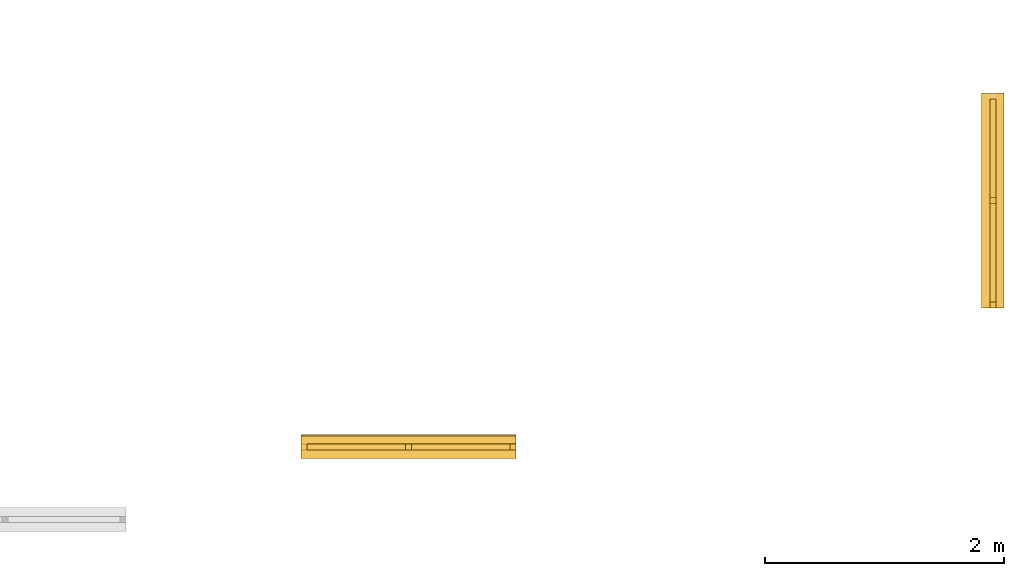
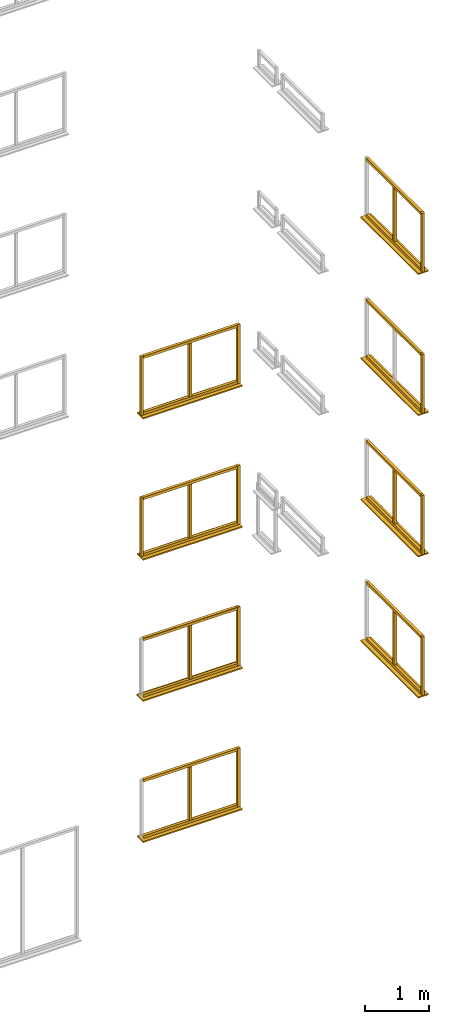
# Not in any storey, part 15 of 22: 46 windows.
"""IFC2X3 model written with IfcOpenShell, lengths in metres."""

from ifc_helpers import new_model, si_unit, frame, origin, place, context, project, faceted_brep, element, save


model = new_model("IFC2X3")

# Units and contexts
model_context = context("Model", 3, precision=1e-06, world=origin())
ifc_project = project(units=[si_unit("LENGTHUNIT", "METRE"), si_unit("PLANEANGLEUNIT", "RADIAN")], contexts=[model_context])

# Windows
placement = place(None, origin())
window_1_placement = place(placement, frame((59.668499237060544, -4.504837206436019, 3.725), z_axis=(0.0, 0.0, 1.0), x_axis=(0.0, 1.0, 0.0)))
element("IfcWindow", 1, at=window_1_placement, Name="leftFrame", context=model_context, shape_type="Brep", body=[
    faceted_brep([(0.0, 0.05, 0.0), (0.05, 0.05, 0.0), (0.05, 0.0, 0.0), (0.0, 0.0, 0.0), (0.05, 0.0, 1.125), (0.05, 0.05, 1.125), (0.0, 0.05, 1.125), (0.0, 0.0, 1.125), (0.0, 0.05, 0.0), (0.0, 0.0, 0.0), (0.0, 0.0, 1.125), (0.0, 0.05, 1.125), (0.05, 0.05, 0.0), (0.0, 0.05, 0.0), (0.0, 0.05, 1.125), (0.05, 0.05, 1.125), (0.05, 0.0, 0.0), (0.05, 0.05, 0.0), (0.05, 0.05, 1.125), (0.05, 0.0, 1.125), (0.0, 0.0, 0.0), (0.05, 0.0, 0.0), (0.05, 0.0, 1.125), (0.0, 0.0, 1.125)], [[[0, 1, 2, 3]], [[4, 5, 6, 7]], [[8, 9, 10, 11]], [[12, 13, 14, 15]], [[16, 17, 18, 19]], [[20, 21, 22, 23]]]),
])
window_2_placement = place(placement, frame((59.736999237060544, -4.504837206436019, 3.7), z_axis=(0.0, 0.0, 1.0), x_axis=(0.0, 1.0, 0.0)))
element("IfcWindow", 2, at=window_2_placement, Name="windowSill", context=model_context, shape_type="Brep", body=[
    faceted_brep([(0.0, 0.187, 0.0), (1.8, 0.187, 0.0), (1.8, 0.0, 0.0), (0.0, 0.0, 0.0), (1.8, 0.0, 0.025), (1.8, 0.187, 0.025), (0.0, 0.187, 0.025), (0.0, 0.0, 0.025), (0.0, 0.187, 0.0), (0.0, 0.0, 0.0), (0.0, 0.0, 0.025), (0.0, 0.187, 0.025), (1.8, 0.187, 0.0), (0.0, 0.187, 0.0), (0.0, 0.187, 0.025), (1.8, 0.187, 0.025), (1.8, 0.0, 0.0), (1.8, 0.187, 0.0), (1.8, 0.187, 0.025), (1.8, 0.0, 0.025), (0.0, 0.0, 0.0), (1.8, 0.0, 0.0), (1.8, 0.0, 0.025), (0.0, 0.0, 0.025)], [[[0, 1, 2, 3]], [[4, 5, 6, 7]], [[8, 9, 10, 11]], [[12, 13, 14, 15]], [[16, 17, 18, 19]], [[20, 21, 22, 23]]]),
])
window_3_placement = place(placement, frame((59.668499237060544, -4.454837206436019, 3.725), z_axis=(0.0, 0.0, 1.0), x_axis=(0.0, 1.0, 0.0)))
element("IfcWindow", 3, at=window_3_placement, Name="bottomFrame", context=model_context, shape_type="Brep", body=[
    faceted_brep([(0.0, 0.05, 0.0), (1.7, 0.05, 0.0), (1.7, 0.0, 0.0), (0.0, 0.0, 0.0), (1.7, 0.0, 0.05), (1.7, 0.05, 0.05), (0.0, 0.05, 0.05), (0.0, 0.0, 0.05), (0.0, 0.05, 0.0), (0.0, 0.0, 0.0), (0.0, 0.0, 0.05), (0.0, 0.05, 0.05), (1.7, 0.05, 0.0), (0.0, 0.05, 0.0), (0.0, 0.05, 0.05), (1.7, 0.05, 0.05), (1.7, 0.0, 0.0), (1.7, 0.05, 0.0), (1.7, 0.05, 0.05), (1.7, 0.0, 0.05), (0.0, 0.0, 0.0), (1.7, 0.0, 0.0), (1.7, 0.0, 0.05), (0.0, 0.0, 0.05)], [[[0, 1, 2, 3]], [[4, 5, 6, 7]], [[8, 9, 10, 11]], [[12, 13, 14, 15]], [[16, 17, 18, 19]], [[20, 21, 22, 23]]]),
])
window_4_placement = place(placement, frame((59.668499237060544, -3.629837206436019, 3.775), z_axis=(0.0, 0.0, 1.0), x_axis=(0.0, 1.0, 0.0)))
element("IfcWindow", 4, at=window_4_placement, Name="verticalBar", context=model_context, shape_type="Brep", body=[
    faceted_brep([(0.0, 0.05, 0.0), (0.05, 0.05, 0.0), (0.05, 0.0, 0.0), (0.0, 0.0, 0.0), (0.05, 0.0, 1.025), (0.05, 0.05, 1.025), (0.0, 0.05, 1.025), (0.0, 0.0, 1.025), (0.0, 0.05, 0.0), (0.0, 0.0, 0.0), (0.0, 0.0, 1.025), (0.0, 0.05, 1.025), (0.05, 0.05, 0.0), (0.0, 0.05, 0.0), (0.0, 0.05, 1.025), (0.05, 0.05, 1.025), (0.05, 0.0, 0.0), (0.05, 0.05, 0.0), (0.05, 0.05, 1.025), (0.05, 0.0, 1.025), (0.0, 0.0, 0.0), (0.05, 0.0, 0.0), (0.05, 0.0, 1.025), (0.0, 0.0, 1.025)], [[[0, 1, 2, 3]], [[4, 5, 6, 7]], [[8, 9, 10, 11]], [[12, 13, 14, 15]], [[16, 17, 18, 19]], [[20, 21, 22, 23]]]),
])
window_5_placement = place(placement, frame((53.84499999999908, -5.766837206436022, 1.0), z_axis=(0.0, 0.0, 1.0), x_axis=(1.0, 0.0, 0.0)))
element("IfcWindow", 5, at=window_5_placement, Name="windowSill", context=model_context, shape_type="Brep", body=[
    faceted_brep([(0.0, 0.187, 0.0), (1.8, 0.187, 0.0), (1.8, 0.0, 0.0), (0.0, 0.0, 0.0), (1.8, 0.0, 0.025), (1.8, 0.187, 0.025), (0.0, 0.187, 0.025), (0.0, 0.0, 0.025), (0.0, 0.187, 0.0), (0.0, 0.0, 0.0), (0.0, 0.0, 0.025), (0.0, 0.187, 0.025), (1.8, 0.187, 0.0), (0.0, 0.187, 0.0), (0.0, 0.187, 0.025), (1.8, 0.187, 0.025), (1.8, 0.0, 0.0), (1.8, 0.187, 0.0), (1.8, 0.187, 0.025), (1.8, 0.0, 0.025), (0.0, 0.0, 0.0), (1.8, 0.0, 0.0), (1.8, 0.0, 0.025), (0.0, 0.0, 0.025)], [[[0, 1, 2, 3]], [[4, 5, 6, 7]], [[8, 9, 10, 11]], [[12, 13, 14, 15]], [[16, 17, 18, 19]], [[20, 21, 22, 23]]]),
])
window_6_placement = place(placement, frame((54.71999999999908, -5.698337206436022, 1.075), z_axis=(0.0, 0.0, 1.0), x_axis=(1.0, 0.0, 0.0)))
element("IfcWindow", 6, at=window_6_placement, Name="verticalBar", context=model_context, shape_type="Brep", body=[
    faceted_brep([(0.0, 0.05, 0.0), (0.05, 0.05, 0.0), (0.05, 0.0, 0.0), (0.0, 0.0, 0.0), (0.05, 0.0, 1.025), (0.05, 0.05, 1.025), (0.0, 0.05, 1.025), (0.0, 0.0, 1.025), (0.0, 0.05, 0.0), (0.0, 0.0, 0.0), (0.0, 0.0, 1.025), (0.0, 0.05, 1.025), (0.05, 0.05, 0.0), (0.0, 0.05, 0.0), (0.0, 0.05, 1.025), (0.05, 0.05, 1.025), (0.05, 0.0, 0.0), (0.05, 0.05, 0.0), (0.05, 0.05, 1.025), (0.05, 0.0, 1.025), (0.0, 0.0, 0.0), (0.05, 0.0, 0.0), (0.05, 0.0, 1.025), (0.0, 0.0, 1.025)], [[[0, 1, 2, 3]], [[4, 5, 6, 7]], [[8, 9, 10, 11]], [[12, 13, 14, 15]], [[16, 17, 18, 19]], [[20, 21, 22, 23]]]),
])
window_7_placement = place(placement, frame((59.736999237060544, -4.504837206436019, 1.0), z_axis=(0.0, 0.0, 1.0), x_axis=(0.0, 1.0, 0.0)))
element("IfcWindow", 7, at=window_7_placement, Name="windowSill", context=model_context, shape_type="Brep", body=[
    faceted_brep([(0.0, 0.187, 0.0), (1.8, 0.187, 0.0), (1.8, 0.0, 0.0), (0.0, 0.0, 0.0), (1.8, 0.0, 0.025), (1.8, 0.187, 0.025), (0.0, 0.187, 0.025), (0.0, 0.0, 0.025), (0.0, 0.187, 0.0), (0.0, 0.0, 0.0), (0.0, 0.0, 0.025), (0.0, 0.187, 0.025), (1.8, 0.187, 0.0), (0.0, 0.187, 0.0), (0.0, 0.187, 0.025), (1.8, 0.187, 0.025), (1.8, 0.0, 0.0), (1.8, 0.187, 0.0), (1.8, 0.187, 0.025), (1.8, 0.0, 0.025), (0.0, 0.0, 0.0), (1.8, 0.0, 0.0), (1.8, 0.0, 0.025), (0.0, 0.0, 0.025)], [[[0, 1, 2, 3]], [[4, 5, 6, 7]], [[8, 9, 10, 11]], [[12, 13, 14, 15]], [[16, 17, 18, 19]], [[20, 21, 22, 23]]]),
])
window_8_placement = place(placement, frame((55.59499999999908, -5.698337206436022, 3.725), z_axis=(0.0, 0.0, 1.0), x_axis=(1.0, 0.0, 0.0)))
element("IfcWindow", 8, at=window_8_placement, Name="rightFrame", context=model_context, shape_type="Brep", body=[
    faceted_brep([(0.0, 0.05, 0.0), (0.05, 0.05, 0.0), (0.05, 0.0, 0.0), (0.0, 0.0, 0.0), (0.05, 0.0, 1.125), (0.05, 0.05, 1.125), (0.0, 0.05, 1.125), (0.0, 0.0, 1.125), (0.0, 0.05, 0.0), (0.0, 0.0, 0.0), (0.0, 0.0, 1.125), (0.0, 0.05, 1.125), (0.05, 0.05, 0.0), (0.0, 0.05, 0.0), (0.0, 0.05, 1.125), (0.05, 0.05, 1.125), (0.05, 0.0, 0.0), (0.05, 0.05, 0.0), (0.05, 0.05, 1.125), (0.05, 0.0, 1.125), (0.0, 0.0, 0.0), (0.05, 0.0, 0.0), (0.05, 0.0, 1.125), (0.0, 0.0, 1.125)], [[[0, 1, 2, 3]], [[4, 5, 6, 7]], [[8, 9, 10, 11]], [[12, 13, 14, 15]], [[16, 17, 18, 19]], [[20, 21, 22, 23]]]),
])
window_9_placement = place(placement, frame((53.89499999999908, -5.698337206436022, 4.8), z_axis=(0.0, 0.0, 1.0), x_axis=(1.0, 0.0, 0.0)))
element("IfcWindow", 9, at=window_9_placement, Name="topFrame", context=model_context, shape_type="Brep", body=[
    faceted_brep([(0.0, 0.05, 0.0), (1.7, 0.05, 0.0), (1.7, 0.0, 0.0), (0.0, 0.0, 0.0), (1.7, 0.0, 0.05), (1.7, 0.05, 0.05), (0.0, 0.05, 0.05), (0.0, 0.0, 0.05), (0.0, 0.05, 0.0), (0.0, 0.0, 0.0), (0.0, 0.0, 0.05), (0.0, 0.05, 0.05), (1.7, 0.05, 0.0), (0.0, 0.05, 0.0), (0.0, 0.05, 0.05), (1.7, 0.05, 0.05), (1.7, 0.0, 0.0), (1.7, 0.05, 0.0), (1.7, 0.05, 0.05), (1.7, 0.0, 0.05), (0.0, 0.0, 0.0), (1.7, 0.0, 0.0), (1.7, 0.0, 0.05), (0.0, 0.0, 0.05)], [[[0, 1, 2, 3]], [[4, 5, 6, 7]], [[8, 9, 10, 11]], [[12, 13, 14, 15]], [[16, 17, 18, 19]], [[20, 21, 22, 23]]]),
])
window_10_placement = place(placement, frame((59.668499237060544, -4.504837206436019, 1.025), z_axis=(0.0, 0.0, 1.0), x_axis=(0.0, 1.0, 0.0)))
element("IfcWindow", 10, at=window_10_placement, Name="leftFrame", context=model_context, shape_type="Brep", body=[
    faceted_brep([(0.0, 0.05, 0.0), (0.05, 0.05, 0.0), (0.05, 0.0, 0.0), (0.0, 0.0, 0.0), (0.05, 0.0, 1.125), (0.05, 0.05, 1.125), (0.0, 0.05, 1.125), (0.0, 0.0, 1.125), (0.0, 0.05, 0.0), (0.0, 0.0, 0.0), (0.0, 0.0, 1.125), (0.0, 0.05, 1.125), (0.05, 0.05, 0.0), (0.0, 0.05, 0.0), (0.0, 0.05, 1.125), (0.05, 0.05, 1.125), (0.05, 0.0, 0.0), (0.05, 0.05, 0.0), (0.05, 0.05, 1.125), (0.05, 0.0, 1.125), (0.0, 0.0, 0.0), (0.05, 0.0, 0.0), (0.05, 0.0, 1.125), (0.0, 0.0, 1.125)], [[[0, 1, 2, 3]], [[4, 5, 6, 7]], [[8, 9, 10, 11]], [[12, 13, 14, 15]], [[16, 17, 18, 19]], [[20, 21, 22, 23]]]),
])
for number, where, z_axis, x_axis, name in (
    (11, (53.89499999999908, -5.698337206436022, 2.1), (0.0, 0.0, 1.0), (1.0, 0.0, 0.0), "topFrame"),
    (12, (59.668499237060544, -4.454837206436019, 1.025), (0.0, 0.0, 1.0), (0.0, 1.0, 0.0), "bottomFrame"),
    (13, (59.668499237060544, -4.454837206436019, 2.1), (0.0, 0.0, 1.0), (0.0, 1.0, 0.0), "topFrame"),
    (14, (59.668499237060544, -4.454837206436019, 4.8), (0.0, 0.0, 1.0), (0.0, 1.0, 0.0), "topFrame"),
):
    element("IfcWindow", number, at=place(placement, frame(where, z_axis=z_axis, x_axis=x_axis)), Name=name, context=model_context, shape_type="Brep", body=[
        faceted_brep([(0.0, 0.05, 0.0), (1.7, 0.05, 0.0), (1.7, 0.0, 0.0), (0.0, 0.0, 0.0), (1.7, 0.0, 0.05), (1.7, 0.05, 0.05), (0.0, 0.05, 0.05), (0.0, 0.0, 0.05), (0.0, 0.05, 0.0), (0.0, 0.0, 0.0), (0.0, 0.0, 0.05), (0.0, 0.05, 0.05), (1.7, 0.05, 0.0), (0.0, 0.05, 0.0), (0.0, 0.05, 0.05), (1.7, 0.05, 0.05), (1.7, 0.0, 0.0), (1.7, 0.05, 0.0), (1.7, 0.05, 0.05), (1.7, 0.0, 0.05), (0.0, 0.0, 0.0), (1.7, 0.0, 0.0), (1.7, 0.0, 0.05), (0.0, 0.0, 0.05)], [[[0, 1, 2, 3]], [[4, 5, 6, 7]], [[8, 9, 10, 11]], [[12, 13, 14, 15]], [[16, 17, 18, 19]], [[20, 21, 22, 23]]]),
    ])
window_11_placement = place(placement, frame((55.59499999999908, -5.698337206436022, 1.025), z_axis=(0.0, 0.0, 1.0), x_axis=(1.0, 0.0, 0.0)))
element("IfcWindow", 15, at=window_11_placement, Name="rightFrame", context=model_context, shape_type="Brep", body=[
    faceted_brep([(0.0, 0.05, 0.0), (0.05, 0.05, 0.0), (0.05, 0.0, 0.0), (0.0, 0.0, 0.0), (0.05, 0.0, 1.125), (0.05, 0.05, 1.125), (0.0, 0.05, 1.125), (0.0, 0.0, 1.125), (0.0, 0.05, 0.0), (0.0, 0.0, 0.0), (0.0, 0.0, 1.125), (0.0, 0.05, 1.125), (0.05, 0.05, 0.0), (0.0, 0.05, 0.0), (0.0, 0.05, 1.125), (0.05, 0.05, 1.125), (0.05, 0.0, 0.0), (0.05, 0.05, 0.0), (0.05, 0.05, 1.125), (0.05, 0.0, 1.125), (0.0, 0.0, 0.0), (0.05, 0.0, 0.0), (0.05, 0.0, 1.125), (0.0, 0.0, 1.125)], [[[0, 1, 2, 3]], [[4, 5, 6, 7]], [[8, 9, 10, 11]], [[12, 13, 14, 15]], [[16, 17, 18, 19]], [[20, 21, 22, 23]]]),
])
window_12_placement = place(placement, frame((53.89499999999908, -5.698337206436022, 3.725), z_axis=(0.0, 0.0, 1.0), x_axis=(1.0, 0.0, 0.0)))
element("IfcWindow", 16, at=window_12_placement, Name="bottomFrame", context=model_context, shape_type="Brep", body=[
    faceted_brep([(0.0, 0.05, 0.0), (1.7, 0.05, 0.0), (1.7, 0.0, 0.0), (0.0, 0.0, 0.0), (1.7, 0.0, 0.05), (1.7, 0.05, 0.05), (0.0, 0.05, 0.05), (0.0, 0.0, 0.05), (0.0, 0.05, 0.0), (0.0, 0.0, 0.0), (0.0, 0.0, 0.05), (0.0, 0.05, 0.05), (1.7, 0.05, 0.0), (0.0, 0.05, 0.0), (0.0, 0.05, 0.05), (1.7, 0.05, 0.05), (1.7, 0.0, 0.0), (1.7, 0.05, 0.0), (1.7, 0.05, 0.05), (1.7, 0.0, 0.05), (0.0, 0.0, 0.0), (1.7, 0.0, 0.0), (1.7, 0.0, 0.05), (0.0, 0.0, 0.05)], [[[0, 1, 2, 3]], [[4, 5, 6, 7]], [[8, 9, 10, 11]], [[12, 13, 14, 15]], [[16, 17, 18, 19]], [[20, 21, 22, 23]]]),
])
window_13_placement = place(placement, frame((59.668499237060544, -3.629837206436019, 1.075), z_axis=(0.0, 0.0, 1.0), x_axis=(0.0, 1.0, 0.0)))
element("IfcWindow", 17, at=window_13_placement, Name="verticalBar", context=model_context, shape_type="Brep", body=[
    faceted_brep([(0.0, 0.05, 0.0), (0.05, 0.05, 0.0), (0.05, 0.0, 0.0), (0.0, 0.0, 0.0), (0.05, 0.0, 1.025), (0.05, 0.05, 1.025), (0.0, 0.05, 1.025), (0.0, 0.0, 1.025), (0.0, 0.05, 0.0), (0.0, 0.0, 0.0), (0.0, 0.0, 1.025), (0.0, 0.05, 1.025), (0.05, 0.05, 0.0), (0.0, 0.05, 0.0), (0.0, 0.05, 1.025), (0.05, 0.05, 1.025), (0.05, 0.0, 0.0), (0.05, 0.05, 0.0), (0.05, 0.05, 1.025), (0.05, 0.0, 1.025), (0.0, 0.0, 0.0), (0.05, 0.0, 0.0), (0.05, 0.0, 1.025), (0.0, 0.0, 1.025)], [[[0, 1, 2, 3]], [[4, 5, 6, 7]], [[8, 9, 10, 11]], [[12, 13, 14, 15]], [[16, 17, 18, 19]], [[20, 21, 22, 23]]]),
])
for number, where, z_axis, x_axis, name in (
    (18, (59.668499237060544, -4.454837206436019, 6.425000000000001), (0.0, 0.0, 1.0), (0.0, 1.0, 0.0), "bottomFrame"),
    (19, (53.89499999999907, -5.691837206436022, 3.725), (0.0, 0.0, 1.0), (1.0, 0.0, 0.0), "bottomFrame"),
):
    element("IfcWindow", number, at=place(placement, frame(where, z_axis=z_axis, x_axis=x_axis)), Name=name, context=model_context, shape_type="Brep", body=[
        faceted_brep([(0.0, 0.05, 0.0), (1.7, 0.05, 0.0), (1.7, 0.0, 0.0), (0.0, 0.0, 0.0), (1.7, 0.0, 0.05), (1.7, 0.05, 0.05), (0.0, 0.05, 0.05), (0.0, 0.0, 0.05), (0.0, 0.05, 0.0), (0.0, 0.0, 0.0), (0.0, 0.0, 0.05), (0.0, 0.05, 0.05), (1.7, 0.05, 0.0), (0.0, 0.05, 0.0), (0.0, 0.05, 0.05), (1.7, 0.05, 0.05), (1.7, 0.0, 0.0), (1.7, 0.05, 0.0), (1.7, 0.05, 0.05), (1.7, 0.0, 0.05), (0.0, 0.0, 0.0), (1.7, 0.0, 0.0), (1.7, 0.0, 0.05), (0.0, 0.0, 0.05)], [[[0, 1, 2, 3]], [[4, 5, 6, 7]], [[8, 9, 10, 11]], [[12, 13, 14, 15]], [[16, 17, 18, 19]], [[20, 21, 22, 23]]]),
    ])
window_14_placement = place(placement, frame((59.736999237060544, -4.504837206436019, 6.4), z_axis=(0.0, 0.0, 1.0), x_axis=(0.0, 1.0, 0.0)))
element("IfcWindow", 20, at=window_14_placement, Name="windowSill", context=model_context, shape_type="Brep", body=[
    faceted_brep([(0.0, 0.187, 0.0), (1.8, 0.187, 0.0), (1.8, 0.0, 0.0), (0.0, 0.0, 0.0), (1.8, 0.0, 0.025), (1.8, 0.187, 0.025), (0.0, 0.187, 0.025), (0.0, 0.0, 0.025), (0.0, 0.187, 0.0), (0.0, 0.0, 0.0), (0.0, 0.0, 0.025), (0.0, 0.187, 0.025), (1.8, 0.187, 0.0), (0.0, 0.187, 0.0), (0.0, 0.187, 0.025), (1.8, 0.187, 0.025), (1.8, 0.0, 0.0), (1.8, 0.187, 0.0), (1.8, 0.187, 0.025), (1.8, 0.0, 0.025), (0.0, 0.0, 0.0), (1.8, 0.0, 0.0), (1.8, 0.0, 0.025), (0.0, 0.0, 0.025)], [[[0, 1, 2, 3]], [[4, 5, 6, 7]], [[8, 9, 10, 11]], [[12, 13, 14, 15]], [[16, 17, 18, 19]], [[20, 21, 22, 23]]]),
])
window_15_placement = place(placement, frame((59.668499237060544, -4.504837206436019, 6.425000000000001), z_axis=(0.0, 0.0, 1.0), x_axis=(0.0, 1.0, 0.0)))
element("IfcWindow", 21, at=window_15_placement, Name="leftFrame", context=model_context, shape_type="Brep", body=[
    faceted_brep([(0.0, 0.05, 0.0), (0.05, 0.05, 0.0), (0.05, 0.0, 0.0), (0.0, 0.0, 0.0), (0.05, 0.0, 1.125), (0.05, 0.05, 1.125), (0.0, 0.05, 1.125), (0.0, 0.0, 1.125), (0.0, 0.05, 0.0), (0.0, 0.0, 0.0), (0.0, 0.0, 1.125), (0.0, 0.05, 1.125), (0.05, 0.05, 0.0), (0.0, 0.05, 0.0), (0.0, 0.05, 1.125), (0.05, 0.05, 1.125), (0.05, 0.0, 0.0), (0.05, 0.05, 0.0), (0.05, 0.05, 1.125), (0.05, 0.0, 1.125), (0.0, 0.0, 0.0), (0.05, 0.0, 0.0), (0.05, 0.0, 1.125), (0.0, 0.0, 1.125)], [[[0, 1, 2, 3]], [[4, 5, 6, 7]], [[8, 9, 10, 11]], [[12, 13, 14, 15]], [[16, 17, 18, 19]], [[20, 21, 22, 23]]]),
])
window_16_placement = place(placement, frame((59.668499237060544, -4.454837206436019, 7.5), z_axis=(0.0, 0.0, 1.0), x_axis=(0.0, 1.0, 0.0)))
element("IfcWindow", 22, at=window_16_placement, Name="topFrame", context=model_context, shape_type="Brep", body=[
    faceted_brep([(0.0, 0.05, 0.0), (1.7, 0.05, 0.0), (1.7, 0.0, 0.0), (0.0, 0.0, 0.0), (1.7, 0.0, 0.05), (1.7, 0.05, 0.05), (0.0, 0.05, 0.05), (0.0, 0.0, 0.05), (0.0, 0.05, 0.0), (0.0, 0.0, 0.0), (0.0, 0.0, 0.05), (0.0, 0.05, 0.05), (1.7, 0.05, 0.0), (0.0, 0.05, 0.0), (0.0, 0.05, 0.05), (1.7, 0.05, 0.05), (1.7, 0.0, 0.0), (1.7, 0.05, 0.0), (1.7, 0.05, 0.05), (1.7, 0.0, 0.05), (0.0, 0.0, 0.0), (1.7, 0.0, 0.0), (1.7, 0.0, 0.05), (0.0, 0.0, 0.05)], [[[0, 1, 2, 3]], [[4, 5, 6, 7]], [[8, 9, 10, 11]], [[12, 13, 14, 15]], [[16, 17, 18, 19]], [[20, 21, 22, 23]]]),
])
window_17_placement = place(placement, frame((54.71999999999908, -5.698337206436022, 3.775), z_axis=(0.0, 0.0, 1.0), x_axis=(1.0, 0.0, 0.0)))
element("IfcWindow", 23, at=window_17_placement, Name="verticalBar", context=model_context, shape_type="Brep", body=[
    faceted_brep([(0.0, 0.05, 0.0), (0.05, 0.05, 0.0), (0.05, 0.0, 0.0), (0.0, 0.0, 0.0), (0.05, 0.0, 1.025), (0.05, 0.05, 1.025), (0.0, 0.05, 1.025), (0.0, 0.0, 1.025), (0.0, 0.05, 0.0), (0.0, 0.0, 0.0), (0.0, 0.0, 1.025), (0.0, 0.05, 1.025), (0.05, 0.05, 0.0), (0.0, 0.05, 0.0), (0.0, 0.05, 1.025), (0.05, 0.05, 1.025), (0.05, 0.0, 0.0), (0.05, 0.05, 0.0), (0.05, 0.05, 1.025), (0.05, 0.0, 1.025), (0.0, 0.0, 0.0), (0.05, 0.0, 0.0), (0.05, 0.0, 1.025), (0.0, 0.0, 1.025)], [[[0, 1, 2, 3]], [[4, 5, 6, 7]], [[8, 9, 10, 11]], [[12, 13, 14, 15]], [[16, 17, 18, 19]], [[20, 21, 22, 23]]]),
])
window_18_placement = place(placement, frame((53.84499999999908, -5.766837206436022, 3.7), z_axis=(0.0, 0.0, 1.0), x_axis=(1.0, 0.0, 0.0)))
element("IfcWindow", 24, at=window_18_placement, Name="windowSill", context=model_context, shape_type="Brep", body=[
    faceted_brep([(0.0, 0.187, 0.0), (1.8, 0.187, 0.0), (1.8, 0.0, 0.0), (0.0, 0.0, 0.0), (1.8, 0.0, 0.025), (1.8, 0.187, 0.025), (0.0, 0.187, 0.025), (0.0, 0.0, 0.025), (0.0, 0.187, 0.0), (0.0, 0.0, 0.0), (0.0, 0.0, 0.025), (0.0, 0.187, 0.025), (1.8, 0.187, 0.0), (0.0, 0.187, 0.0), (0.0, 0.187, 0.025), (1.8, 0.187, 0.025), (1.8, 0.0, 0.0), (1.8, 0.187, 0.0), (1.8, 0.187, 0.025), (1.8, 0.0, 0.025), (0.0, 0.0, 0.0), (1.8, 0.0, 0.0), (1.8, 0.0, 0.025), (0.0, 0.0, 0.025)], [[[0, 1, 2, 3]], [[4, 5, 6, 7]], [[8, 9, 10, 11]], [[12, 13, 14, 15]], [[16, 17, 18, 19]], [[20, 21, 22, 23]]]),
])
window_19_placement = place(placement, frame((54.71999999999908, -5.698337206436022, 6.475000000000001), z_axis=(0.0, 0.0, 1.0), x_axis=(1.0, 0.0, 0.0)))
element("IfcWindow", 25, at=window_19_placement, Name="verticalBar", context=model_context, shape_type="Brep", body=[
    faceted_brep([(0.0, 0.05, 0.0), (0.05, 0.05, 0.0), (0.05, 0.0, 0.0), (0.0, 0.0, 0.0), (0.05, 0.0, 1.025), (0.05, 0.05, 1.025), (0.0, 0.05, 1.025), (0.0, 0.0, 1.025), (0.0, 0.05, 0.0), (0.0, 0.0, 0.0), (0.0, 0.0, 1.025), (0.0, 0.05, 1.025), (0.05, 0.05, 0.0), (0.0, 0.05, 0.0), (0.0, 0.05, 1.025), (0.05, 0.05, 1.025), (0.05, 0.0, 0.0), (0.05, 0.05, 0.0), (0.05, 0.05, 1.025), (0.05, 0.0, 1.025), (0.0, 0.0, 0.0), (0.05, 0.0, 0.0), (0.05, 0.0, 1.025), (0.0, 0.0, 1.025)], [[[0, 1, 2, 3]], [[4, 5, 6, 7]], [[8, 9, 10, 11]], [[12, 13, 14, 15]], [[16, 17, 18, 19]], [[20, 21, 22, 23]]]),
])
window_20_placement = place(placement, frame((53.84499999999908, -5.766837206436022, 9.100000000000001), z_axis=(0.0, 0.0, 1.0), x_axis=(1.0, 0.0, 0.0)))
element("IfcWindow", 26, at=window_20_placement, Name="windowSill", context=model_context, shape_type="Brep", body=[
    faceted_brep([(0.0, 0.187, 0.0), (1.8, 0.187, 0.0), (1.8, 0.0, 0.0), (0.0, 0.0, 0.0), (1.8, 0.0, 0.025), (1.8, 0.187, 0.025), (0.0, 0.187, 0.025), (0.0, 0.0, 0.025), (0.0, 0.187, 0.0), (0.0, 0.0, 0.0), (0.0, 0.0, 0.025), (0.0, 0.187, 0.025), (1.8, 0.187, 0.0), (0.0, 0.187, 0.0), (0.0, 0.187, 0.025), (1.8, 0.187, 0.025), (1.8, 0.0, 0.0), (1.8, 0.187, 0.0), (1.8, 0.187, 0.025), (1.8, 0.0, 0.025), (0.0, 0.0, 0.0), (1.8, 0.0, 0.0), (1.8, 0.0, 0.025), (0.0, 0.0, 0.025)], [[[0, 1, 2, 3]], [[4, 5, 6, 7]], [[8, 9, 10, 11]], [[12, 13, 14, 15]], [[16, 17, 18, 19]], [[20, 21, 22, 23]]]),
])
window_21_placement = place(placement, frame((54.71999999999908, -5.698337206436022, 9.175), z_axis=(0.0, 0.0, 1.0), x_axis=(1.0, 0.0, 0.0)))
element("IfcWindow", 27, at=window_21_placement, Name="verticalBar", context=model_context, shape_type="Brep", body=[
    faceted_brep([(0.0, 0.05, 0.0), (0.05, 0.05, 0.0), (0.05, 0.0, 0.0), (0.0, 0.0, 0.0), (0.05, 0.0, 1.025), (0.05, 0.05, 1.025), (0.0, 0.05, 1.025), (0.0, 0.0, 1.025), (0.0, 0.05, 0.0), (0.0, 0.0, 0.0), (0.0, 0.0, 1.025), (0.0, 0.05, 1.025), (0.05, 0.05, 0.0), (0.0, 0.05, 0.0), (0.0, 0.05, 1.025), (0.05, 0.05, 1.025), (0.05, 0.0, 0.0), (0.05, 0.05, 0.0), (0.05, 0.05, 1.025), (0.05, 0.0, 1.025), (0.0, 0.0, 0.0), (0.05, 0.0, 0.0), (0.05, 0.0, 1.025), (0.0, 0.0, 1.025)], [[[0, 1, 2, 3]], [[4, 5, 6, 7]], [[8, 9, 10, 11]], [[12, 13, 14, 15]], [[16, 17, 18, 19]], [[20, 21, 22, 23]]]),
])
window_22_placement = place(placement, frame((59.668499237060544, -4.454837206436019, 10.200000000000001), z_axis=(0.0, 0.0, 1.0), x_axis=(0.0, 1.0, 0.0)))
element("IfcWindow", 28, at=window_22_placement, Name="topFrame", context=model_context, shape_type="Brep", body=[
    faceted_brep([(0.0, 0.05, 0.0), (1.7, 0.05, 0.0), (1.7, 0.0, 0.0), (0.0, 0.0, 0.0), (1.7, 0.0, 0.05), (1.7, 0.05, 0.05), (0.0, 0.05, 0.05), (0.0, 0.0, 0.05), (0.0, 0.05, 0.0), (0.0, 0.0, 0.0), (0.0, 0.0, 0.05), (0.0, 0.05, 0.05), (1.7, 0.05, 0.0), (0.0, 0.05, 0.0), (0.0, 0.05, 0.05), (1.7, 0.05, 0.05), (1.7, 0.0, 0.0), (1.7, 0.05, 0.0), (1.7, 0.05, 0.05), (1.7, 0.0, 0.05), (0.0, 0.0, 0.0), (1.7, 0.0, 0.0), (1.7, 0.0, 0.05), (0.0, 0.0, 0.05)], [[[0, 1, 2, 3]], [[4, 5, 6, 7]], [[8, 9, 10, 11]], [[12, 13, 14, 15]], [[16, 17, 18, 19]], [[20, 21, 22, 23]]]),
])
window_23_placement = place(placement, frame((59.668499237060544, -4.504837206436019, 9.125000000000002), z_axis=(0.0, 0.0, 1.0), x_axis=(0.0, 1.0, 0.0)))
element("IfcWindow", 29, at=window_23_placement, Name="leftFrame", context=model_context, shape_type="Brep", body=[
    faceted_brep([(0.0, 0.05, 0.0), (0.05, 0.05, 0.0), (0.05, 0.0, 0.0), (0.0, 0.0, 0.0), (0.05, 0.0, 1.125), (0.05, 0.05, 1.125), (0.0, 0.05, 1.125), (0.0, 0.0, 1.125), (0.0, 0.05, 0.0), (0.0, 0.0, 0.0), (0.0, 0.0, 1.125), (0.0, 0.05, 1.125), (0.05, 0.05, 0.0), (0.0, 0.05, 0.0), (0.0, 0.05, 1.125), (0.05, 0.05, 1.125), (0.05, 0.0, 0.0), (0.05, 0.05, 0.0), (0.05, 0.05, 1.125), (0.05, 0.0, 1.125), (0.0, 0.0, 0.0), (0.05, 0.0, 0.0), (0.05, 0.0, 1.125), (0.0, 0.0, 1.125)], [[[0, 1, 2, 3]], [[4, 5, 6, 7]], [[8, 9, 10, 11]], [[12, 13, 14, 15]], [[16, 17, 18, 19]], [[20, 21, 22, 23]]]),
])
window_24_placement = place(placement, frame((59.736999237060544, -4.504837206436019, 9.100000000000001), z_axis=(0.0, 0.0, 1.0), x_axis=(0.0, 1.0, 0.0)))
element("IfcWindow", 30, at=window_24_placement, Name="windowSill", context=model_context, shape_type="Brep", body=[
    faceted_brep([(0.0, 0.187, 0.0), (1.8, 0.187, 0.0), (1.8, 0.0, 0.0), (0.0, 0.0, 0.0), (1.8, 0.0, 0.025), (1.8, 0.187, 0.025), (0.0, 0.187, 0.025), (0.0, 0.0, 0.025), (0.0, 0.187, 0.0), (0.0, 0.0, 0.0), (0.0, 0.0, 0.025), (0.0, 0.187, 0.025), (1.8, 0.187, 0.0), (0.0, 0.187, 0.0), (0.0, 0.187, 0.025), (1.8, 0.187, 0.025), (1.8, 0.0, 0.0), (1.8, 0.187, 0.0), (1.8, 0.187, 0.025), (1.8, 0.0, 0.025), (0.0, 0.0, 0.0), (1.8, 0.0, 0.0), (1.8, 0.0, 0.025), (0.0, 0.0, 0.025)], [[[0, 1, 2, 3]], [[4, 5, 6, 7]], [[8, 9, 10, 11]], [[12, 13, 14, 15]], [[16, 17, 18, 19]], [[20, 21, 22, 23]]]),
])
window_25_placement = place(placement, frame((59.668499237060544, -4.454837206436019, 9.125000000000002), z_axis=(0.0, 0.0, 1.0), x_axis=(0.0, 1.0, 0.0)))
element("IfcWindow", 31, at=window_25_placement, Name="bottomFrame", context=model_context, shape_type="Brep", body=[
    faceted_brep([(0.0, 0.05, 0.0), (1.7, 0.05, 0.0), (1.7, 0.0, 0.0), (0.0, 0.0, 0.0), (1.7, 0.0, 0.05), (1.7, 0.05, 0.05), (0.0, 0.05, 0.05), (0.0, 0.0, 0.05), (0.0, 0.05, 0.0), (0.0, 0.0, 0.0), (0.0, 0.0, 0.05), (0.0, 0.05, 0.05), (1.7, 0.05, 0.0), (0.0, 0.05, 0.0), (0.0, 0.05, 0.05), (1.7, 0.05, 0.05), (1.7, 0.0, 0.0), (1.7, 0.05, 0.0), (1.7, 0.05, 0.05), (1.7, 0.0, 0.05), (0.0, 0.0, 0.0), (1.7, 0.0, 0.0), (1.7, 0.0, 0.05), (0.0, 0.0, 0.05)], [[[0, 1, 2, 3]], [[4, 5, 6, 7]], [[8, 9, 10, 11]], [[12, 13, 14, 15]], [[16, 17, 18, 19]], [[20, 21, 22, 23]]]),
])
for number, where, z_axis, x_axis, name in (
    (32, (59.668499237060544, -3.629837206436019, 9.175), (0.0, 0.0, 1.0), (0.0, 1.0, 0.0), "verticalBar"),
    (33, (54.719999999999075, -5.691837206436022, 3.775), (0.0, 0.0, 1.0), (1.0, 0.0, 0.0), "verticalBar"),
):
    element("IfcWindow", number, at=place(placement, frame(where, z_axis=z_axis, x_axis=x_axis)), Name=name, context=model_context, shape_type="Brep", body=[
        faceted_brep([(0.0, 0.05, 0.0), (0.05, 0.05, 0.0), (0.05, 0.0, 0.0), (0.0, 0.0, 0.0), (0.05, 0.0, 1.025), (0.05, 0.05, 1.025), (0.0, 0.05, 1.025), (0.0, 0.0, 1.025), (0.0, 0.05, 0.0), (0.0, 0.0, 0.0), (0.0, 0.0, 1.025), (0.0, 0.05, 1.025), (0.05, 0.05, 0.0), (0.0, 0.05, 0.0), (0.0, 0.05, 1.025), (0.05, 0.05, 1.025), (0.05, 0.0, 0.0), (0.05, 0.05, 0.0), (0.05, 0.05, 1.025), (0.05, 0.0, 1.025), (0.0, 0.0, 0.0), (0.05, 0.0, 0.0), (0.05, 0.0, 1.025), (0.0, 0.0, 1.025)], [[[0, 1, 2, 3]], [[4, 5, 6, 7]], [[8, 9, 10, 11]], [[12, 13, 14, 15]], [[16, 17, 18, 19]], [[20, 21, 22, 23]]]),
    ])
window_26_placement = place(placement, frame((53.844999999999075, -5.766837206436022, 3.7), z_axis=(0.0, 0.0, 1.0), x_axis=(1.0, 0.0, 0.0)))
element("IfcWindow", 34, at=window_26_placement, Name="windowSill", context=model_context, shape_type="Brep", body=[
    faceted_brep([(0.0, 0.2, 0.0), (1.8, 0.2, 0.0), (1.8, 0.0, 0.0), (0.0, 0.0, 0.0), (1.8, 0.0, 0.025), (1.8, 0.2, 0.025), (0.0, 0.2, 0.025), (0.0, 0.0, 0.025), (0.0, 0.2, 0.0), (0.0, 0.0, 0.0), (0.0, 0.0, 0.025), (0.0, 0.2, 0.025), (1.8, 0.2, 0.0), (0.0, 0.2, 0.0), (0.0, 0.2, 0.025), (1.8, 0.2, 0.025), (1.8, 0.0, 0.0), (1.8, 0.2, 0.0), (1.8, 0.2, 0.025), (1.8, 0.0, 0.025), (0.0, 0.0, 0.0), (1.8, 0.0, 0.0), (1.8, 0.0, 0.025), (0.0, 0.0, 0.025)], [[[0, 1, 2, 3]], [[4, 5, 6, 7]], [[8, 9, 10, 11]], [[12, 13, 14, 15]], [[16, 17, 18, 19]], [[20, 21, 22, 23]]]),
])
window_27_placement = place(placement, frame((55.594999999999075, -5.691837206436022, 3.725), z_axis=(0.0, 0.0, 1.0), x_axis=(1.0, 0.0, 0.0)))
element("IfcWindow", 35, at=window_27_placement, Name="rightFrame", context=model_context, shape_type="Brep", body=[
    faceted_brep([(0.0, 0.05, 0.0), (0.05, 0.05, 0.0), (0.05, 0.0, 0.0), (0.0, 0.0, 0.0), (0.05, 0.0, 1.125), (0.05, 0.05, 1.125), (0.0, 0.05, 1.125), (0.0, 0.0, 1.125), (0.0, 0.05, 0.0), (0.0, 0.0, 0.0), (0.0, 0.0, 1.125), (0.0, 0.05, 1.125), (0.05, 0.05, 0.0), (0.0, 0.05, 0.0), (0.0, 0.05, 1.125), (0.05, 0.05, 1.125), (0.05, 0.0, 0.0), (0.05, 0.05, 0.0), (0.05, 0.05, 1.125), (0.05, 0.0, 1.125), (0.0, 0.0, 0.0), (0.05, 0.0, 0.0), (0.05, 0.0, 1.125), (0.0, 0.0, 1.125)], [[[0, 1, 2, 3]], [[4, 5, 6, 7]], [[8, 9, 10, 11]], [[12, 13, 14, 15]], [[16, 17, 18, 19]], [[20, 21, 22, 23]]]),
])
window_28_placement = place(placement, frame((53.89499999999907, -5.691837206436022, 4.8), z_axis=(0.0, 0.0, 1.0), x_axis=(1.0, 0.0, 0.0)))
element("IfcWindow", 36, at=window_28_placement, Name="topFrame", context=model_context, shape_type="Brep", body=[
    faceted_brep([(0.0, 0.05, 0.0), (1.7, 0.05, 0.0), (1.7, 0.0, 0.0), (0.0, 0.0, 0.0), (1.7, 0.0, 0.05), (1.7, 0.05, 0.05), (0.0, 0.05, 0.05), (0.0, 0.0, 0.05), (0.0, 0.05, 0.0), (0.0, 0.0, 0.0), (0.0, 0.0, 0.05), (0.0, 0.05, 0.05), (1.7, 0.05, 0.0), (0.0, 0.05, 0.0), (0.0, 0.05, 0.05), (1.7, 0.05, 0.05), (1.7, 0.0, 0.0), (1.7, 0.05, 0.0), (1.7, 0.05, 0.05), (1.7, 0.0, 0.05), (0.0, 0.0, 0.0), (1.7, 0.0, 0.0), (1.7, 0.0, 0.05), (0.0, 0.0, 0.05)], [[[0, 1, 2, 3]], [[4, 5, 6, 7]], [[8, 9, 10, 11]], [[12, 13, 14, 15]], [[16, 17, 18, 19]], [[20, 21, 22, 23]]]),
])
window_29_placement = place(placement, frame((53.84499999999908, -5.698337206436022, 6.425000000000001), z_axis=(0.0, 0.0, 1.0), x_axis=(1.0, 0.0, 0.0)))
element("IfcWindow", 37, at=window_29_placement, Name="leftFrame", context=model_context, shape_type="Brep", body=[
    faceted_brep([(0.0, 0.05, 0.0), (0.05, 0.05, 0.0), (0.05, 0.0, 0.0), (0.0, 0.0, 0.0), (0.05, 0.0, 1.125), (0.05, 0.05, 1.125), (0.0, 0.05, 1.125), (0.0, 0.0, 1.125), (0.0, 0.05, 0.0), (0.0, 0.0, 0.0), (0.0, 0.0, 1.125), (0.0, 0.05, 1.125), (0.05, 0.05, 0.0), (0.0, 0.05, 0.0), (0.0, 0.05, 1.125), (0.05, 0.05, 1.125), (0.05, 0.0, 0.0), (0.05, 0.05, 0.0), (0.05, 0.05, 1.125), (0.05, 0.0, 1.125), (0.0, 0.0, 0.0), (0.05, 0.0, 0.0), (0.05, 0.0, 1.125), (0.0, 0.0, 1.125)], [[[0, 1, 2, 3]], [[4, 5, 6, 7]], [[8, 9, 10, 11]], [[12, 13, 14, 15]], [[16, 17, 18, 19]], [[20, 21, 22, 23]]]),
])
window_30_placement = place(placement, frame((53.89499999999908, -5.698337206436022, 6.425000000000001), z_axis=(0.0, 0.0, 1.0), x_axis=(1.0, 0.0, 0.0)))
element("IfcWindow", 38, at=window_30_placement, Name="bottomFrame", context=model_context, shape_type="Brep", body=[
    faceted_brep([(0.0, 0.05, 0.0), (1.7, 0.05, 0.0), (1.7, 0.0, 0.0), (0.0, 0.0, 0.0), (1.7, 0.0, 0.05), (1.7, 0.05, 0.05), (0.0, 0.05, 0.05), (0.0, 0.0, 0.05), (0.0, 0.05, 0.0), (0.0, 0.0, 0.0), (0.0, 0.0, 0.05), (0.0, 0.05, 0.05), (1.7, 0.05, 0.0), (0.0, 0.05, 0.0), (0.0, 0.05, 0.05), (1.7, 0.05, 0.05), (1.7, 0.0, 0.0), (1.7, 0.05, 0.0), (1.7, 0.05, 0.05), (1.7, 0.0, 0.05), (0.0, 0.0, 0.0), (1.7, 0.0, 0.0), (1.7, 0.0, 0.05), (0.0, 0.0, 0.05)], [[[0, 1, 2, 3]], [[4, 5, 6, 7]], [[8, 9, 10, 11]], [[12, 13, 14, 15]], [[16, 17, 18, 19]], [[20, 21, 22, 23]]]),
])
window_31_placement = place(placement, frame((55.59499999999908, -5.698337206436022, 9.125000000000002), z_axis=(0.0, 0.0, 1.0), x_axis=(1.0, 0.0, 0.0)))
element("IfcWindow", 39, at=window_31_placement, Name="rightFrame", context=model_context, shape_type="Brep", body=[
    faceted_brep([(0.0, 0.05, 0.0), (0.05, 0.05, 0.0), (0.05, 0.0, 0.0), (0.0, 0.0, 0.0), (0.05, 0.0, 1.125), (0.05, 0.05, 1.125), (0.0, 0.05, 1.125), (0.0, 0.0, 1.125), (0.0, 0.05, 0.0), (0.0, 0.0, 0.0), (0.0, 0.0, 1.125), (0.0, 0.05, 1.125), (0.05, 0.05, 0.0), (0.0, 0.05, 0.0), (0.0, 0.05, 1.125), (0.05, 0.05, 1.125), (0.05, 0.0, 0.0), (0.05, 0.05, 0.0), (0.05, 0.05, 1.125), (0.05, 0.0, 1.125), (0.0, 0.0, 0.0), (0.05, 0.0, 0.0), (0.05, 0.0, 1.125), (0.0, 0.0, 1.125)], [[[0, 1, 2, 3]], [[4, 5, 6, 7]], [[8, 9, 10, 11]], [[12, 13, 14, 15]], [[16, 17, 18, 19]], [[20, 21, 22, 23]]]),
])
window_32_placement = place(placement, frame((53.89499999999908, -5.698337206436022, 10.200000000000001), z_axis=(0.0, 0.0, 1.0), x_axis=(1.0, 0.0, 0.0)))
element("IfcWindow", 40, at=window_32_placement, Name="topFrame", context=model_context, shape_type="Brep", body=[
    faceted_brep([(0.0, 0.05, 0.0), (1.7, 0.05, 0.0), (1.7, 0.0, 0.0), (0.0, 0.0, 0.0), (1.7, 0.0, 0.05), (1.7, 0.05, 0.05), (0.0, 0.05, 0.05), (0.0, 0.0, 0.05), (0.0, 0.05, 0.0), (0.0, 0.0, 0.0), (0.0, 0.0, 0.05), (0.0, 0.05, 0.05), (1.7, 0.05, 0.0), (0.0, 0.05, 0.0), (0.0, 0.05, 0.05), (1.7, 0.05, 0.05), (1.7, 0.0, 0.0), (1.7, 0.05, 0.0), (1.7, 0.05, 0.05), (1.7, 0.0, 0.05), (0.0, 0.0, 0.0), (1.7, 0.0, 0.0), (1.7, 0.0, 0.05), (0.0, 0.0, 0.05)], [[[0, 1, 2, 3]], [[4, 5, 6, 7]], [[8, 9, 10, 11]], [[12, 13, 14, 15]], [[16, 17, 18, 19]], [[20, 21, 22, 23]]]),
])
window_33_placement = place(placement, frame((55.59499999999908, -5.698337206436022, 6.425000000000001), z_axis=(0.0, 0.0, 1.0), x_axis=(1.0, 0.0, 0.0)))
element("IfcWindow", 41, at=window_33_placement, Name="rightFrame", context=model_context, shape_type="Brep", body=[
    faceted_brep([(0.0, 0.05, 0.0), (0.05, 0.05, 0.0), (0.05, 0.0, 0.0), (0.0, 0.0, 0.0), (0.05, 0.0, 1.125), (0.05, 0.05, 1.125), (0.0, 0.05, 1.125), (0.0, 0.0, 1.125), (0.0, 0.05, 0.0), (0.0, 0.0, 0.0), (0.0, 0.0, 1.125), (0.0, 0.05, 1.125), (0.05, 0.05, 0.0), (0.0, 0.05, 0.0), (0.0, 0.05, 1.125), (0.05, 0.05, 1.125), (0.05, 0.0, 0.0), (0.05, 0.05, 0.0), (0.05, 0.05, 1.125), (0.05, 0.0, 1.125), (0.0, 0.0, 0.0), (0.05, 0.0, 0.0), (0.05, 0.0, 1.125), (0.0, 0.0, 1.125)], [[[0, 1, 2, 3]], [[4, 5, 6, 7]], [[8, 9, 10, 11]], [[12, 13, 14, 15]], [[16, 17, 18, 19]], [[20, 21, 22, 23]]]),
])
window_34_placement = place(placement, frame((53.84499999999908, -5.766837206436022, 6.4), z_axis=(0.0, 0.0, 1.0), x_axis=(1.0, 0.0, 0.0)))
element("IfcWindow", 42, at=window_34_placement, Name="windowSill", context=model_context, shape_type="Brep", body=[
    faceted_brep([(0.0, 0.187, 0.0), (1.8, 0.187, 0.0), (1.8, 0.0, 0.0), (0.0, 0.0, 0.0), (1.8, 0.0, 0.025), (1.8, 0.187, 0.025), (0.0, 0.187, 0.025), (0.0, 0.0, 0.025), (0.0, 0.187, 0.0), (0.0, 0.0, 0.0), (0.0, 0.0, 0.025), (0.0, 0.187, 0.025), (1.8, 0.187, 0.0), (0.0, 0.187, 0.0), (0.0, 0.187, 0.025), (1.8, 0.187, 0.025), (1.8, 0.0, 0.0), (1.8, 0.187, 0.0), (1.8, 0.187, 0.025), (1.8, 0.0, 0.025), (0.0, 0.0, 0.0), (1.8, 0.0, 0.0), (1.8, 0.0, 0.025), (0.0, 0.0, 0.025)], [[[0, 1, 2, 3]], [[4, 5, 6, 7]], [[8, 9, 10, 11]], [[12, 13, 14, 15]], [[16, 17, 18, 19]], [[20, 21, 22, 23]]]),
])
for number, where, z_axis, x_axis, name in (
    (43, (53.89499999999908, -5.698337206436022, 9.125000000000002), (0.0, 0.0, 1.0), (1.0, 0.0, 0.0), "bottomFrame"),
    (44, (53.89499999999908, -5.698337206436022, 1.025), (0.0, 0.0, 1.0), (1.0, 0.0, 0.0), "bottomFrame"),
):
    element("IfcWindow", number, at=place(placement, frame(where, z_axis=z_axis, x_axis=x_axis)), Name=name, context=model_context, shape_type="Brep", body=[
        faceted_brep([(0.0, 0.05, 0.0), (1.7, 0.05, 0.0), (1.7, 0.0, 0.0), (0.0, 0.0, 0.0), (1.7, 0.0, 0.05), (1.7, 0.05, 0.05), (0.0, 0.05, 0.05), (0.0, 0.0, 0.05), (0.0, 0.05, 0.0), (0.0, 0.0, 0.0), (0.0, 0.0, 0.05), (0.0, 0.05, 0.05), (1.7, 0.05, 0.0), (0.0, 0.05, 0.0), (0.0, 0.05, 0.05), (1.7, 0.05, 0.05), (1.7, 0.0, 0.0), (1.7, 0.05, 0.0), (1.7, 0.05, 0.05), (1.7, 0.0, 0.05), (0.0, 0.0, 0.0), (1.7, 0.0, 0.0), (1.7, 0.0, 0.05), (0.0, 0.0, 0.05)], [[[0, 1, 2, 3]], [[4, 5, 6, 7]], [[8, 9, 10, 11]], [[12, 13, 14, 15]], [[16, 17, 18, 19]], [[20, 21, 22, 23]]]),
    ])
window_35_placement = place(placement, frame((53.84499999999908, -5.698337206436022, 9.125000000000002), z_axis=(0.0, 0.0, 1.0), x_axis=(1.0, 0.0, 0.0)))
element("IfcWindow", 45, at=window_35_placement, Name="leftFrame", context=model_context, shape_type="Brep", body=[
    faceted_brep([(0.0, 0.05, 0.0), (0.05, 0.05, 0.0), (0.05, 0.0, 0.0), (0.0, 0.0, 0.0), (0.05, 0.0, 1.125), (0.05, 0.05, 1.125), (0.0, 0.05, 1.125), (0.0, 0.0, 1.125), (0.0, 0.05, 0.0), (0.0, 0.0, 0.0), (0.0, 0.0, 1.125), (0.0, 0.05, 1.125), (0.05, 0.05, 0.0), (0.0, 0.05, 0.0), (0.0, 0.05, 1.125), (0.05, 0.05, 1.125), (0.05, 0.0, 0.0), (0.05, 0.05, 0.0), (0.05, 0.05, 1.125), (0.05, 0.0, 1.125), (0.0, 0.0, 0.0), (0.05, 0.0, 0.0), (0.05, 0.0, 1.125), (0.0, 0.0, 1.125)], [[[0, 1, 2, 3]], [[4, 5, 6, 7]], [[8, 9, 10, 11]], [[12, 13, 14, 15]], [[16, 17, 18, 19]], [[20, 21, 22, 23]]]),
])
window_36_placement = place(placement, frame((53.89499999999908, -5.698337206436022, 7.5), z_axis=(0.0, 0.0, 1.0), x_axis=(1.0, 0.0, 0.0)))
element("IfcWindow", 46, at=window_36_placement, Name="topFrame", context=model_context, shape_type="Brep", body=[
    faceted_brep([(0.0, 0.05, 0.0), (1.7, 0.05, 0.0), (1.7, 0.0, 0.0), (0.0, 0.0, 0.0), (1.7, 0.0, 0.05), (1.7, 0.05, 0.05), (0.0, 0.05, 0.05), (0.0, 0.0, 0.05), (0.0, 0.05, 0.0), (0.0, 0.0, 0.0), (0.0, 0.0, 0.05), (0.0, 0.05, 0.05), (1.7, 0.05, 0.0), (0.0, 0.05, 0.0), (0.0, 0.05, 0.05), (1.7, 0.05, 0.05), (1.7, 0.0, 0.0), (1.7, 0.05, 0.0), (1.7, 0.05, 0.05), (1.7, 0.0, 0.05), (0.0, 0.0, 0.0), (1.7, 0.0, 0.0), (1.7, 0.0, 0.05), (0.0, 0.0, 0.05)], [[[0, 1, 2, 3]], [[4, 5, 6, 7]], [[8, 9, 10, 11]], [[12, 13, 14, 15]], [[16, 17, 18, 19]], [[20, 21, 22, 23]]]),
])

save(model, "model.ifc")
